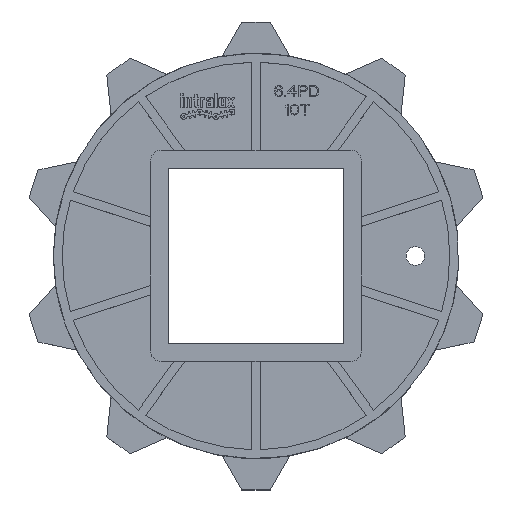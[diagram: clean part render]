
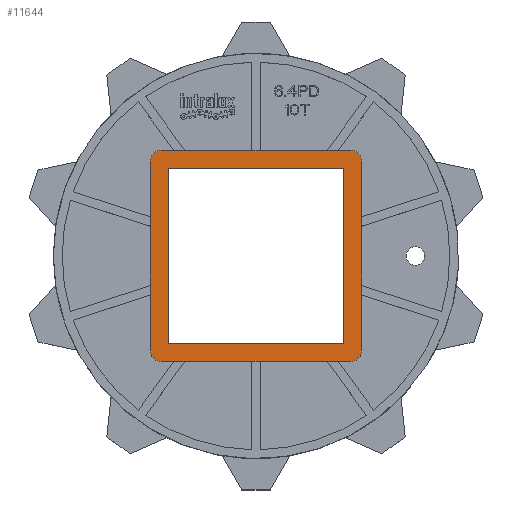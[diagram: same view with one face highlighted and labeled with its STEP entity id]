
A CAD part, top view. The second image highlights one B-rep face of the part: STEP entity #11644.
In plain terms, the highlighted planar face has unit normal (0, 0, 1).
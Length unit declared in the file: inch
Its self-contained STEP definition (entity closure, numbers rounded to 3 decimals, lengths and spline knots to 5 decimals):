
#2818=CARTESIAN_POINT('',(-1.275,-1.275,0.745));
#2819=DIRECTION('',(0.,0.,1.));
#2820=DIRECTION('',(-1.,0.,0.));
#2821=AXIS2_PLACEMENT_3D('',#2818,#2819,#2820);
#2823=DIRECTION('',(0.,-1.,0.));
#2824=VECTOR('',#2823,2.55);
#2825=CARTESIAN_POINT('',(-1.425,1.275,0.745));
#2826=LINE('',#2825,#2824);
#2827=CARTESIAN_POINT('',(-1.275,1.275,0.745));
#2828=DIRECTION('',(0.,0.,1.));
#2829=DIRECTION('',(0.,1.,0.));
#2830=AXIS2_PLACEMENT_3D('',#2827,#2828,#2829);
#2832=DIRECTION('',(-1.,0.,0.));
#2833=VECTOR('',#2832,2.55);
#2834=CARTESIAN_POINT('',(1.275,1.425,0.745));
#2835=LINE('',#2834,#2833);
#2836=CARTESIAN_POINT('',(1.275,1.275,0.745));
#2837=DIRECTION('',(0.,0.,1.));
#2838=DIRECTION('',(1.,0.,0.));
#2839=AXIS2_PLACEMENT_3D('',#2836,#2837,#2838);
#2841=DIRECTION('',(0.,1.,0.));
#2842=VECTOR('',#2841,2.55);
#2843=CARTESIAN_POINT('',(1.425,-1.275,0.745));
#2844=LINE('',#2843,#2842);
#2845=CARTESIAN_POINT('',(1.275,-1.275,0.745));
#2846=DIRECTION('',(0.,0.,1.));
#2847=DIRECTION('',(0.,-1.,0.));
#2848=AXIS2_PLACEMENT_3D('',#2845,#2846,#2847);
#2850=DIRECTION('',(1.,0.,0.));
#2851=VECTOR('',#2850,2.55);
#2852=CARTESIAN_POINT('',(-1.275,-1.425,0.745));
#2853=LINE('',#2852,#2851);
#2854=DIRECTION('',(0.,-1.,0.));
#2855=VECTOR('',#2854,2.362);
#2856=CARTESIAN_POINT('',(-1.181,1.181,0.745));
#2857=LINE('',#2856,#2855);
#2858=DIRECTION('',(1.,0.,0.));
#2859=VECTOR('',#2858,2.362);
#2860=CARTESIAN_POINT('',(-1.181,-1.181,0.745));
#2861=LINE('',#2860,#2859);
#2862=DIRECTION('',(0.,1.,0.));
#2863=VECTOR('',#2862,2.362);
#2864=CARTESIAN_POINT('',(1.181,-1.181,0.745));
#2865=LINE('',#2864,#2863);
#2866=DIRECTION('',(-1.,0.,0.));
#2867=VECTOR('',#2866,2.362);
#2868=CARTESIAN_POINT('',(1.181,1.181,0.745));
#2869=LINE('',#2868,#2867);
#7277=CARTESIAN_POINT('',(-1.181,1.181,0.745));
#7278=CARTESIAN_POINT('',(-1.181,-1.181,0.745));
#7279=VERTEX_POINT('',#7277);
#7280=VERTEX_POINT('',#7278);
#7281=CARTESIAN_POINT('',(1.181,-1.181,0.745));
#7282=VERTEX_POINT('',#7281);
#7283=CARTESIAN_POINT('',(1.181,1.181,0.745));
#7284=VERTEX_POINT('',#7283);
#8937=CARTESIAN_POINT('',(-1.425,-1.275,0.745));
#8938=VERTEX_POINT('',#8937);
#8939=CARTESIAN_POINT('',(-1.275,-1.425,0.745));
#8940=VERTEX_POINT('',#8939);
#8949=CARTESIAN_POINT('',(1.275,-1.425,0.745));
#8950=VERTEX_POINT('',#8949);
#8951=CARTESIAN_POINT('',(1.425,-1.275,0.745));
#8952=VERTEX_POINT('',#8951);
#8961=CARTESIAN_POINT('',(1.425,1.275,0.745));
#8963=VERTEX_POINT('',#8961);
#8965=CARTESIAN_POINT('',(1.275,1.425,0.745));
#8966=VERTEX_POINT('',#8965);
#8973=CARTESIAN_POINT('',(-1.275,1.425,0.745));
#8975=VERTEX_POINT('',#8973);
#8977=CARTESIAN_POINT('',(-1.425,1.275,0.745));
#8978=VERTEX_POINT('',#8977);
#11614=CARTESIAN_POINT('',(0.,0.,0.745));
#11615=DIRECTION('',(0.,0.,1.));
#11616=DIRECTION('',(1.,0.,0.));
#11617=AXIS2_PLACEMENT_3D('',#11614,#11615,#11616);
#11618=PLANE('',#11617);
#11619=ORIENTED_EDGE('',*,*,#10171,.F.);
#11620=ORIENTED_EDGE('',*,*,#10128,.F.);
#11622=ORIENTED_EDGE('',*,*,#11621,.F.);
#11624=ORIENTED_EDGE('',*,*,#11623,.F.);
#11626=ORIENTED_EDGE('',*,*,#11625,.F.);
#11628=ORIENTED_EDGE('',*,*,#11627,.F.);
#11630=ORIENTED_EDGE('',*,*,#11629,.F.);
#11631=ORIENTED_EDGE('',*,*,#11555,.F.);
#11632=EDGE_LOOP('',(#11619,#11620,#11622,#11624,#11626,#11628,#11630,#11631));
#11633=FACE_OUTER_BOUND('',#11632,.F.);
#11635=ORIENTED_EDGE('',*,*,#11634,.T.);
#11637=ORIENTED_EDGE('',*,*,#11636,.T.);
#11639=ORIENTED_EDGE('',*,*,#11638,.T.);
#11641=ORIENTED_EDGE('',*,*,#11640,.T.);
#11642=EDGE_LOOP('',(#11635,#11637,#11639,#11641));
#11643=FACE_BOUND('',#11642,.F.);
#11644=ADVANCED_FACE('',(#11633,#11643),#11618,.T.);
#2822=CIRCLE('',#2821,0.15);
#2831=CIRCLE('',#2830,0.15);
#2840=CIRCLE('',#2839,0.15);
#2849=CIRCLE('',#2848,0.15);
#10128=EDGE_CURVE('',#8978,#8938,#2826,.T.);
#10171=EDGE_CURVE('',#8938,#8940,#2822,.T.);
#11555=EDGE_CURVE('',#8940,#8950,#2853,.T.);
#11621=EDGE_CURVE('',#8975,#8978,#2831,.T.);
#11623=EDGE_CURVE('',#8966,#8975,#2835,.T.);
#11625=EDGE_CURVE('',#8963,#8966,#2840,.T.);
#11627=EDGE_CURVE('',#8952,#8963,#2844,.T.);
#11629=EDGE_CURVE('',#8950,#8952,#2849,.T.);
#11634=EDGE_CURVE('',#7279,#7280,#2857,.T.);
#11636=EDGE_CURVE('',#7280,#7282,#2861,.T.);
#11638=EDGE_CURVE('',#7282,#7284,#2865,.T.);
#11640=EDGE_CURVE('',#7284,#7279,#2869,.T.);
